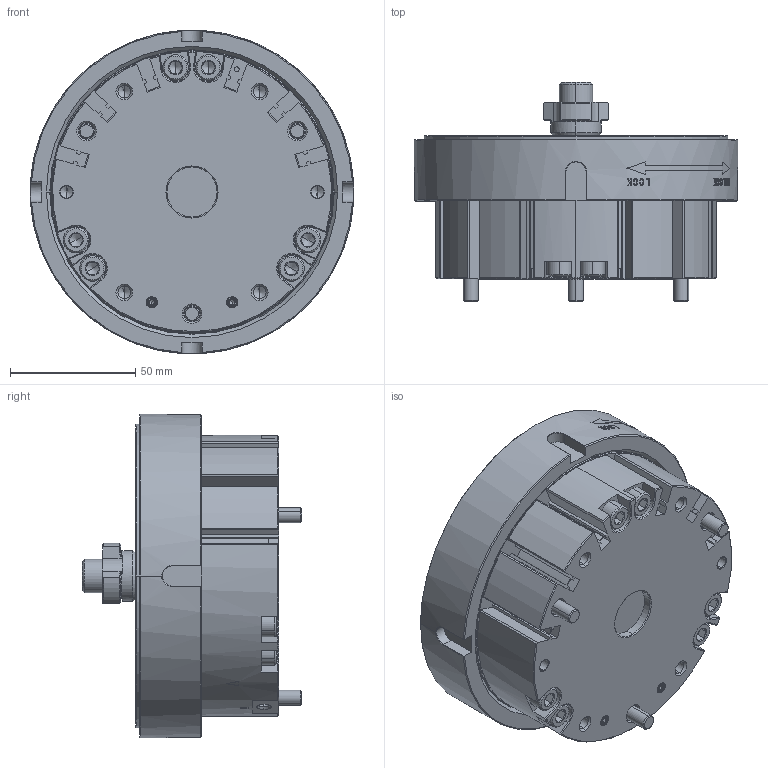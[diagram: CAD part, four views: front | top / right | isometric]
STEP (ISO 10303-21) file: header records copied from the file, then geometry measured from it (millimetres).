
FILE_DESCRIPTION (( 'STEP AP214' ), '1' );
FILE_NAME ('QGB11-UC.STEP', '2026-01-13T05:39:54', ( '' ), ( '' ), 'SwSTEP 2.0', 'SolidWorks 2022', '' );
FILE_SCHEMA (( 'AUTOMOTIVE_DESIGN' ));
Length unit declared in the file: millimetre
Products named in the file (8): BALL PLUNGER^HP-QGB11-Assy-61G869587-20251224; BOLT1^HP-QGB11-Assy-61G869587-20251224; S-TOME^HP-QGB11-Assy-61G869587-20251224; MAIN-UC^HP-QGB11-Assy-61G869587-20251224; KNOCK PIN^HP-QGB11-Assy-61G869587-20251224; QGB11-UC; BOLT2^HP-QGB11-Assy-61G869587-20251224; BOLT3^HP-QGB11-Assy-61G869587-20251224
Assembly tree (17 placements, depth 2):
  QGB11-UC
    BOLT1^HP-QGB11-Assy-61G869587-20251224  x6
    BOLT2^HP-QGB11-Assy-61G869587-20251224
    S-TOME^HP-QGB11-Assy-61G869587-20251224  x2
    KNOCK PIN^HP-QGB11-Assy-61G869587-20251224
    BALL PLUNGER^HP-QGB11-Assy-61G869587-20251224  x3
    BOLT3^HP-QGB11-Assy-61G869587-20251224  x3
    MAIN-UC^HP-QGB11-Assy-61G869587-20251224
Bounding box: 129 x 87.3 x 129 mm (x, y, z)
Volume: 523466.5 mm3; surface area: 101789.7 mm2
Topology: 17 solids, 18 shells, 2108 faces, 5605 edges, 3616 vertices
Faces by surface type: bspline 956, plane 513, cone 317, cylinder 300, torus 14, sphere 8
Entity records: 93228 total; most frequent: CARTESIAN_POINT 48490, ORIENTED_EDGE 10294, EDGE_CURVE 5147, DIRECTION 4855, VERTEX_POINT 3349, B_SPLINE_CURVE_WITH_KNOTS 3126, EDGE_LOOP 2058, FACE_OUTER_BOUND 1924
